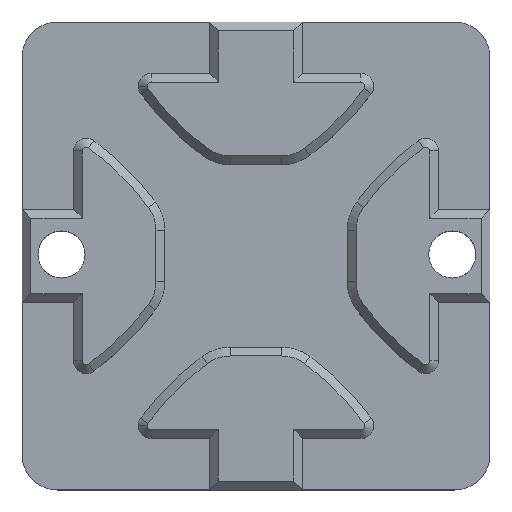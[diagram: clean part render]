
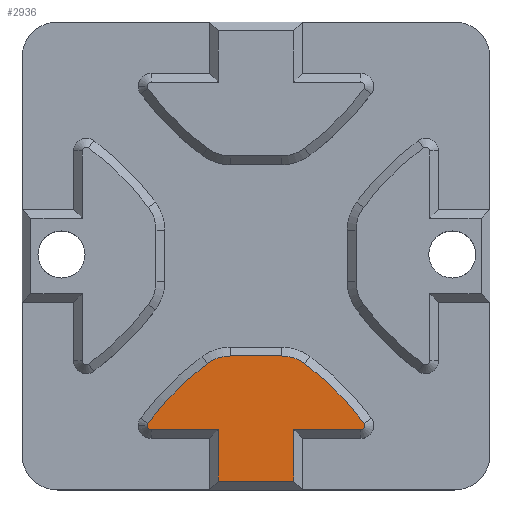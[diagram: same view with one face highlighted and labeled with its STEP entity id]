
A CAD part, top view. The second image highlights one B-rep face of the part: STEP entity #2936.
In plain terms, the highlighted planar face has unit normal (0, 0, 1).
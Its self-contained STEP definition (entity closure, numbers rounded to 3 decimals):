
#13 = DIRECTION ( 'NONE',  ( 0., 1., 0. ) ) ;
#92 = CARTESIAN_POINT ( 'NONE',  ( 11.084, 5.584, 3.5 ) ) ;
#98 = CARTESIAN_POINT ( 'NONE',  ( 28.916, 0.875, 3.5 ) ) ;
#102 = CARTESIAN_POINT ( 'NONE',  ( 22.193, 8.25, 3.5 ) ) ;
#144 = CIRCLE ( 'NONE', #2999, 3.25 ) ;
#147 = VERTEX_POINT ( 'NONE', #2573 ) ;
#150 = AXIS2_PLACEMENT_3D ( 'NONE', #1460, #2613, #892 ) ;
#173 = DIRECTION ( 'NONE',  ( 1., 0., 0. ) ) ;
#234 = VERTEX_POINT ( 'NONE', #604 ) ;
#295 = VERTEX_POINT ( 'NONE', #2123 ) ;
#300 = CARTESIAN_POINT ( 'NONE',  ( 17.807, 11.5, 3.5 ) ) ;
#412 = VECTOR ( 'NONE', #13, 1000. ) ;
#434 = EDGE_CURVE ( 'NONE', #2778, #1689, #1161, .T. ) ;
#468 = LINE ( 'NONE', #98, #848 ) ;
#469 = EDGE_CURVE ( 'NONE', #2244, #2984, #2309, .T. ) ;
#500 = VERTEX_POINT ( 'NONE', #1931 ) ;
#604 = CARTESIAN_POINT ( 'NONE',  ( 16.8, 5.25, 3.5 ) ) ;
#702 = EDGE_CURVE ( 'NONE', #234, #839, #2132, .T. ) ;
#803 = DIRECTION ( 'NONE',  ( 1., 0., 0. ) ) ;
#808 = CARTESIAN_POINT ( 'NONE',  ( 23.2, 4.5, 3.5 ) ) ;
#839 = VERTEX_POINT ( 'NONE', #3032 ) ;
#848 = VECTOR ( 'NONE', #1546, 1000. ) ;
#892 = DIRECTION ( 'NONE',  ( 1., 0., 0. ) ) ;
#1054 = DIRECTION ( 'NONE',  ( 0., 0., 1. ) ) ;
#1089 = ORIENTED_EDGE ( 'NONE', *, *, #1819, .T. ) ;
#1097 = ORIENTED_EDGE ( 'NONE', *, *, #1414, .T. ) ;
#1123 = CARTESIAN_POINT ( 'NONE',  ( 17.807, 8.25, 3.5 ) ) ;
#1125 = DIRECTION ( 'NONE',  ( 0., 0., 1. ) ) ;
#1138 = EDGE_CURVE ( 'NONE', #1696, #295, #2534, .T. ) ;
#1141 = AXIS2_PLACEMENT_3D ( 'NONE', #3405, #1125, #2288 ) ;
#1161 = LINE ( 'NONE', #808, #412 ) ;
#1232 = EDGE_CURVE ( 'NONE', #500, #147, #2197, .T. ) ;
#1262 = CIRCLE ( 'NONE', #1949, 0.334 ) ;
#1267 = AXIS2_PLACEMENT_3D ( 'NONE', #3607, #1627, #2176 ) ;
#1379 = DIRECTION ( 'NONE',  ( 0., 0., 1. ) ) ;
#1411 = CARTESIAN_POINT ( 'NONE',  ( 16.05, 5.25, 3.5 ) ) ;
#1414 = EDGE_CURVE ( 'NONE', #1577, #234, #3542, .T. ) ;
#1439 = ORIENTED_EDGE ( 'NONE', *, *, #1138, .T. ) ;
#1442 = CARTESIAN_POINT ( 'NONE',  ( 17.807, 11.5, 3.5 ) ) ;
#1460 = CARTESIAN_POINT ( 'NONE',  ( 28.916, 5.584, 3.5 ) ) ;
#1479 = AXIS2_PLACEMENT_3D ( 'NONE', #2784, #1054, #3046 ) ;
#1493 = VECTOR ( 'NONE', #2171, 1000. ) ;
#1520 = CARTESIAN_POINT ( 'NONE',  ( 11.084, 5.25, 3.5 ) ) ;
#1546 = DIRECTION ( 'NONE',  ( 1., 0., 0. ) ) ;
#1577 = VERTEX_POINT ( 'NONE', #1520 ) ;
#1625 = CARTESIAN_POINT ( 'NONE',  ( 23.2, 0.875, 3.5 ) ) ;
#1627 = DIRECTION ( 'NONE',  ( 0., 0., 1. ) ) ;
#1657 = EDGE_CURVE ( 'NONE', #839, #2778, #468, .T. ) ;
#1689 = VERTEX_POINT ( 'NONE', #3569 ) ;
#1696 = VERTEX_POINT ( 'NONE', #3508 ) ;
#1747 = EDGE_CURVE ( 'NONE', #1689, #2244, #2245, .T. ) ;
#1765 = CARTESIAN_POINT ( 'NONE',  ( 10.75, 5.584, 3.5 ) ) ;
#1806 = CARTESIAN_POINT ( 'NONE',  ( 28.916, 5.25, 3.5 ) ) ;
#1819 = EDGE_CURVE ( 'NONE', #147, #3158, #3494, .T. ) ;
#1862 = DIRECTION ( 'NONE',  ( 0., 0., 1. ) ) ;
#1931 = CARTESIAN_POINT ( 'NONE',  ( 15.867, 10.858, 3.5 ) ) ;
#1945 = PLANE ( 'NONE',  #1479 ) ;
#1949 = AXIS2_PLACEMENT_3D ( 'NONE', #92, #3446, #2067 ) ;
#1954 = DIRECTION ( 'NONE',  ( 0., 0., 1. ) ) ;
#1956 = ORIENTED_EDGE ( 'NONE', *, *, #2656, .T. ) ;
#1964 = ORIENTED_EDGE ( 'NONE', *, *, #1747, .T. ) ;
#2014 = CARTESIAN_POINT ( 'NONE',  ( 29.185, 5.782, 3.5 ) ) ;
#2025 = DIRECTION ( 'NONE',  ( -1., 0., 0. ) ) ;
#2027 = VECTOR ( 'NONE', #3078, 1000. ) ;
#2067 = DIRECTION ( 'NONE',  ( 1., 0., 0. ) ) ;
#2111 = EDGE_CURVE ( 'NONE', #3158, #1577, #1262, .T. ) ;
#2123 = CARTESIAN_POINT ( 'NONE',  ( 22.193, 11.5, 3.5 ) ) ;
#2131 = ORIENTED_EDGE ( 'NONE', *, *, #3447, .T. ) ;
#2132 = LINE ( 'NONE', #3264, #3426 ) ;
#2171 = DIRECTION ( 'NONE',  ( 1., 0., 0. ) ) ;
#2176 = DIRECTION ( 'NONE',  ( 1., 0., 0. ) ) ;
#2197 = CIRCLE ( 'NONE', #1267, 24.25 ) ;
#2222 = ORIENTED_EDGE ( 'NONE', *, *, #702, .T. ) ;
#2244 = VERTEX_POINT ( 'NONE', #1806 ) ;
#2245 = LINE ( 'NONE', #2425, #1493 ) ;
#2288 = DIRECTION ( 'NONE',  ( 1., 0., 0. ) ) ;
#2309 = CIRCLE ( 'NONE', #150, 0.334 ) ;
#2425 = CARTESIAN_POINT ( 'NONE',  ( 28.916, 5.25, 3.5 ) ) ;
#2441 = VECTOR ( 'NONE', #2025, 1000. ) ;
#2479 = CIRCLE ( 'NONE', #1141, 24.25 ) ;
#2515 = EDGE_CURVE ( 'NONE', #3437, #500, #144, .T. ) ;
#2534 = CIRCLE ( 'NONE', #3109, 3.25 ) ;
#2573 = CARTESIAN_POINT ( 'NONE',  ( 10.815, 5.782, 3.5 ) ) ;
#2613 = DIRECTION ( 'NONE',  ( 0., 0., 1. ) ) ;
#2656 = EDGE_CURVE ( 'NONE', #295, #3437, #3282, .T. ) ;
#2669 = ORIENTED_EDGE ( 'NONE', *, *, #469, .T. ) ;
#2778 = VERTEX_POINT ( 'NONE', #1625 ) ;
#2784 = CARTESIAN_POINT ( 'NONE',  ( 28.916, 5.584, 3.5 ) ) ;
#2885 = ORIENTED_EDGE ( 'NONE', *, *, #1657, .T. ) ;
#2936 = ADVANCED_FACE ( 'NONE', ( #3239 ), #1945, .T. ) ;
#2943 = ORIENTED_EDGE ( 'NONE', *, *, #434, .T. ) ;
#2984 = VERTEX_POINT ( 'NONE', #2014 ) ;
#2999 = AXIS2_PLACEMENT_3D ( 'NONE', #1123, #1954, #803 ) ;
#3032 = CARTESIAN_POINT ( 'NONE',  ( 16.8, 0.875, 3.5 ) ) ;
#3046 = DIRECTION ( 'NONE',  ( 1., 0., 0. ) ) ;
#3078 = DIRECTION ( 'NONE',  ( 1., 0., 0. ) ) ;
#3109 = AXIS2_PLACEMENT_3D ( 'NONE', #102, #1862, #173 ) ;
#3116 = EDGE_LOOP ( 'NONE', ( #1089, #3383, #1097, #2222, #2885, #2943, #1964, #2669, #2131, #1439, #1956, #3255, #3623 ) ) ;
#3158 = VERTEX_POINT ( 'NONE', #1765 ) ;
#3239 = FACE_OUTER_BOUND ( 'NONE', #3116, .T. ) ;
#3255 = ORIENTED_EDGE ( 'NONE', *, *, #2515, .T. ) ;
#3264 = CARTESIAN_POINT ( 'NONE',  ( 16.8, 0.125, 3.5 ) ) ;
#3282 = LINE ( 'NONE', #300, #2441 ) ;
#3338 = CARTESIAN_POINT ( 'NONE',  ( 11.084, 5.584, 3.5 ) ) ;
#3367 = DIRECTION ( 'NONE',  ( 1., 0., 0. ) ) ;
#3383 = ORIENTED_EDGE ( 'NONE', *, *, #2111, .T. ) ;
#3405 = CARTESIAN_POINT ( 'NONE',  ( 9.66, -8.6, 3.5 ) ) ;
#3426 = VECTOR ( 'NONE', #3562, 1000. ) ;
#3437 = VERTEX_POINT ( 'NONE', #1442 ) ;
#3446 = DIRECTION ( 'NONE',  ( 0., 0., 1. ) ) ;
#3447 = EDGE_CURVE ( 'NONE', #2984, #1696, #2479, .T. ) ;
#3494 = CIRCLE ( 'NONE', #3691, 0.334 ) ;
#3508 = CARTESIAN_POINT ( 'NONE',  ( 24.133, 10.858, 3.5 ) ) ;
#3542 = LINE ( 'NONE', #1411, #2027 ) ;
#3562 = DIRECTION ( 'NONE',  ( 0., -1., 0. ) ) ;
#3569 = CARTESIAN_POINT ( 'NONE',  ( 23.2, 5.25, 3.5 ) ) ;
#3607 = CARTESIAN_POINT ( 'NONE',  ( 30.34, -8.6, 3.5 ) ) ;
#3623 = ORIENTED_EDGE ( 'NONE', *, *, #1232, .T. ) ;
#3691 = AXIS2_PLACEMENT_3D ( 'NONE', #3338, #1379, #3367 ) ;
